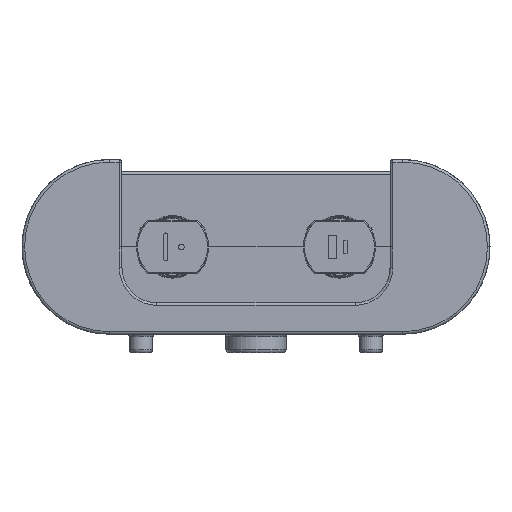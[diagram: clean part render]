
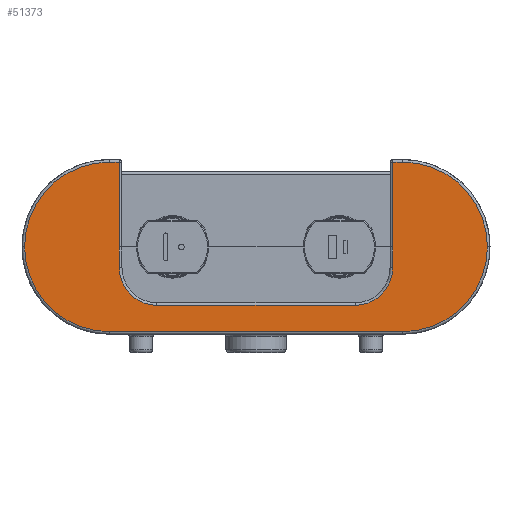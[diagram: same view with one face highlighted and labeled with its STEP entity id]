
A CAD part, front view. The second image highlights one B-rep face of the part: STEP entity #51373.
In plain terms, the highlighted planar face has unit normal (0, -1, 0).
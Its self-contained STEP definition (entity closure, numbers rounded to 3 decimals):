
#81 = CARTESIAN_POINT ( 'NONE',  ( -26.2, -2.2, 0. ) ) ;
#844 = CARTESIAN_POINT ( 'NONE',  ( 26.2, -2.2, 0. ) ) ;
#1046 = VECTOR ( 'NONE', #49778, 1000. ) ;
#1625 = PLANE ( 'NONE',  #34460 ) ;
#1986 = CARTESIAN_POINT ( 'NONE',  ( -28.1, -2.2, -16.25 ) ) ;
#2671 = CARTESIAN_POINT ( 'NONE',  ( 28.1, -2.2, -16.25 ) ) ;
#2857 = DIRECTION ( 'NONE',  ( 0., 0., 1. ) ) ;
#3566 = LINE ( 'NONE', #16932, #18539 ) ;
#4041 = EDGE_CURVE ( 'NONE', #16713, #10835, #33601, .T. ) ;
#5636 = DIRECTION ( 'NONE',  ( -1., 0., -0.005 ) ) ;
#6562 = EDGE_CURVE ( 'NONE', #48424, #56779, #24600, .T. ) ;
#7986 = CIRCLE ( 'NONE', #23519, 16.25 ) ;
#10514 = DIRECTION ( 'NONE',  ( 0., 0., -1. ) ) ;
#10687 = DIRECTION ( 'NONE',  ( 0., 0., -1. ) ) ;
#10835 = VERTEX_POINT ( 'NONE', #56232 ) ;
#10849 = EDGE_LOOP ( 'NONE', ( #41041, #34684, #49790, #43659, #16456, #57735, #32599, #13487, #13859, #48321, #23863, #26226, #53171, #60005 ) ) ;
#10860 = DIRECTION ( 'NONE',  ( -1., 0., 0.005 ) ) ;
#13301 = DIRECTION ( 'NONE',  ( 0., 0., -1. ) ) ;
#13385 = EDGE_CURVE ( 'NONE', #31907, #55447, #50479, .T. ) ;
#13487 = ORIENTED_EDGE ( 'NONE', *, *, #43765, .T. ) ;
#13859 = ORIENTED_EDGE ( 'NONE', *, *, #27482, .T. ) ;
#14299 = EDGE_CURVE ( 'NONE', #60818, #55192, #48028, .T. ) ;
#16237 = CARTESIAN_POINT ( 'NONE',  ( 28.1, -2.2, 0. ) ) ;
#16456 = ORIENTED_EDGE ( 'NONE', *, *, #55556, .T. ) ;
#16713 = VERTEX_POINT ( 'NONE', #17465 ) ;
#16823 = VECTOR ( 'NONE', #2857, 1000. ) ;
#16867 = DIRECTION ( 'NONE',  ( 0., 0., -1. ) ) ;
#16932 = CARTESIAN_POINT ( 'NONE',  ( 26.2, -2.2, 0. ) ) ;
#17183 = AXIS2_PLACEMENT_3D ( 'NONE', #50985, #41311, #21218 ) ;
#17267 = AXIS2_PLACEMENT_3D ( 'NONE', #38943, #63643, #38496 ) ;
#17465 = CARTESIAN_POINT ( 'NONE',  ( 26.2, -2.2, -4. ) ) ;
#17644 = LINE ( 'NONE', #37892, #16823 ) ;
#17901 = CARTESIAN_POINT ( 'NONE',  ( 26.2, -2.2, 0. ) ) ;
#18539 = VECTOR ( 'NONE', #42323, 1000. ) ;
#19024 = CARTESIAN_POINT ( 'NONE',  ( 28.095, -2.2, 16.25 ) ) ;
#19168 = DIRECTION ( 'NONE',  ( 0., -1., 0. ) ) ;
#19310 = CARTESIAN_POINT ( 'NONE',  ( 26.2, -2.2, 16.24 ) ) ;
#19583 = CARTESIAN_POINT ( 'NONE',  ( -28.1, -2.2, 0. ) ) ;
#19756 = CARTESIAN_POINT ( 'NONE',  ( 28.1, -2.2, -16.25 ) ) ;
#20768 = CARTESIAN_POINT ( 'NONE',  ( -44.35, -2.2, 0. ) ) ;
#21007 = CARTESIAN_POINT ( 'NONE',  ( -19., -2.2, -4. ) ) ;
#21218 = DIRECTION ( 'NONE',  ( 0., 0., -1. ) ) ;
#21385 = CARTESIAN_POINT ( 'NONE',  ( -19., -2.2, -11.2 ) ) ;
#21693 = CARTESIAN_POINT ( 'NONE',  ( -28.097, -2.2, 16.25 ) ) ;
#23519 = AXIS2_PLACEMENT_3D ( 'NONE', #16237, #37383, #16867 ) ;
#23863 = ORIENTED_EDGE ( 'NONE', *, *, #51577, .T. ) ;
#24489 = EDGE_CURVE ( 'NONE', #10835, #48424, #35060, .T. ) ;
#24600 = CIRCLE ( 'NONE', #61782, 7.2 ) ;
#26226 = ORIENTED_EDGE ( 'NONE', *, *, #33054, .T. ) ;
#26314 = CARTESIAN_POINT ( 'NONE',  ( -26.2, -2.2, 16.24 ) ) ;
#27482 = EDGE_CURVE ( 'NONE', #37484, #60818, #7986, .T. ) ;
#28773 = AXIS2_PLACEMENT_3D ( 'NONE', #36277, #61437, #10514 ) ;
#28869 = DIRECTION ( 'NONE',  ( 0., 0., -1. ) ) ;
#29933 = VERTEX_POINT ( 'NONE', #20768 ) ;
#30522 = DIRECTION ( 'NONE',  ( 0., 1., 0. ) ) ;
#31172 = CARTESIAN_POINT ( 'NONE',  ( 28.1, -2.2, 0. ) ) ;
#31907 = VERTEX_POINT ( 'NONE', #26314 ) ;
#32212 = CARTESIAN_POINT ( 'NONE',  ( -26.2, -2.2, 0. ) ) ;
#32599 = ORIENTED_EDGE ( 'NONE', *, *, #34259, .T. ) ;
#33054 = EDGE_CURVE ( 'NONE', #63234, #16713, #3566, .T. ) ;
#33601 = CIRCLE ( 'NONE', #28773, 7.2 ) ;
#34259 = EDGE_CURVE ( 'NONE', #50575, #45121, #58577, .T. ) ;
#34456 = CIRCLE ( 'NONE', #17183, 16.25 ) ;
#34460 = AXIS2_PLACEMENT_3D ( 'NONE', #31172, #36881, #10687 ) ;
#34594 = VECTOR ( 'NONE', #5636, 1000. ) ;
#34684 = ORIENTED_EDGE ( 'NONE', *, *, #47640, .T. ) ;
#35060 = LINE ( 'NONE', #46333, #62650 ) ;
#36020 = DIRECTION ( 'NONE',  ( 0., 0., -1. ) ) ;
#36277 = CARTESIAN_POINT ( 'NONE',  ( 19., -2.2, -4. ) ) ;
#36881 = DIRECTION ( 'NONE',  ( 0., -1., 0. ) ) ;
#37383 = DIRECTION ( 'NONE',  ( 0., -1., 0. ) ) ;
#37484 = VERTEX_POINT ( 'NONE', #58119 ) ;
#37892 = CARTESIAN_POINT ( 'NONE',  ( -26.2, -2.2, 0. ) ) ;
#38450 = EDGE_CURVE ( 'NONE', #29933, #50575, #39327, .T. ) ;
#38478 = VECTOR ( 'NONE', #13301, 1000. ) ;
#38496 = DIRECTION ( 'NONE',  ( 0., 0., -1. ) ) ;
#38943 = CARTESIAN_POINT ( 'NONE',  ( -28.1, -2.2, 0. ) ) ;
#39327 = CIRCLE ( 'NONE', #17267, 16.25 ) ;
#40182 = AXIS2_PLACEMENT_3D ( 'NONE', #19583, #19168, #28869 ) ;
#41041 = ORIENTED_EDGE ( 'NONE', *, *, #6562, .T. ) ;
#41303 = CARTESIAN_POINT ( 'NONE',  ( 28.185, -2.2, 15.95 ) ) ;
#41311 = DIRECTION ( 'NONE',  ( 0., -1., 0. ) ) ;
#42323 = DIRECTION ( 'NONE',  ( 0., 0., -1. ) ) ;
#43659 = ORIENTED_EDGE ( 'NONE', *, *, #13385, .T. ) ;
#43765 = EDGE_CURVE ( 'NONE', #45121, #37484, #34456, .T. ) ;
#44841 = EDGE_CURVE ( 'NONE', #56591, #31907, #47834, .T. ) ;
#45121 = VERTEX_POINT ( 'NONE', #2671 ) ;
#46333 = CARTESIAN_POINT ( 'NONE',  ( -19., -2.2, -11.2 ) ) ;
#47164 = FACE_OUTER_BOUND ( 'NONE', #10849, .T. ) ;
#47640 = EDGE_CURVE ( 'NONE', #56779, #56591, #17644, .T. ) ;
#47834 = LINE ( 'NONE', #81, #57273 ) ;
#48028 = LINE ( 'NONE', #50783, #34594 ) ;
#48321 = ORIENTED_EDGE ( 'NONE', *, *, #14299, .T. ) ;
#48424 = VERTEX_POINT ( 'NONE', #21385 ) ;
#49778 = DIRECTION ( 'NONE',  ( 1., 0., 0. ) ) ;
#49790 = ORIENTED_EDGE ( 'NONE', *, *, #44841, .T. ) ;
#50479 = LINE ( 'NONE', #41303, #51240 ) ;
#50575 = VERTEX_POINT ( 'NONE', #1986 ) ;
#50763 = DIRECTION ( 'NONE',  ( 0., 0., 1. ) ) ;
#50783 = CARTESIAN_POINT ( 'NONE',  ( 28.013, -2.2, 16.25 ) ) ;
#50939 = DIRECTION ( 'NONE',  ( -1., 0., 0. ) ) ;
#50985 = CARTESIAN_POINT ( 'NONE',  ( 28.1, -2.2, 0. ) ) ;
#51240 = VECTOR ( 'NONE', #10860, 1000. ) ;
#51373 = ADVANCED_FACE ( 'NONE', ( #47164 ), #1625, .T. ) ;
#51577 = EDGE_CURVE ( 'NONE', #55192, #63234, #55784, .T. ) ;
#52695 = CARTESIAN_POINT ( 'NONE',  ( -26.2, -2.2, -4. ) ) ;
#53171 = ORIENTED_EDGE ( 'NONE', *, *, #4041, .T. ) ;
#53317 = CIRCLE ( 'NONE', #40182, 16.25 ) ;
#55192 = VERTEX_POINT ( 'NONE', #19310 ) ;
#55447 = VERTEX_POINT ( 'NONE', #21693 ) ;
#55556 = EDGE_CURVE ( 'NONE', #55447, #29933, #53317, .T. ) ;
#55784 = LINE ( 'NONE', #17901, #38478 ) ;
#56232 = CARTESIAN_POINT ( 'NONE',  ( 19., -2.2, -11.2 ) ) ;
#56591 = VERTEX_POINT ( 'NONE', #32212 ) ;
#56779 = VERTEX_POINT ( 'NONE', #52695 ) ;
#57273 = VECTOR ( 'NONE', #50763, 1000. ) ;
#57735 = ORIENTED_EDGE ( 'NONE', *, *, #38450, .T. ) ;
#58119 = CARTESIAN_POINT ( 'NONE',  ( 44.35, -2.2, 0. ) ) ;
#58577 = LINE ( 'NONE', #19756, #1046 ) ;
#60005 = ORIENTED_EDGE ( 'NONE', *, *, #24489, .T. ) ;
#60818 = VERTEX_POINT ( 'NONE', #19024 ) ;
#61437 = DIRECTION ( 'NONE',  ( 0., 1., 0. ) ) ;
#61782 = AXIS2_PLACEMENT_3D ( 'NONE', #21007, #30522, #36020 ) ;
#62650 = VECTOR ( 'NONE', #50939, 1000. ) ;
#63234 = VERTEX_POINT ( 'NONE', #844 ) ;
#63643 = DIRECTION ( 'NONE',  ( 0., -1., 0. ) ) ;
